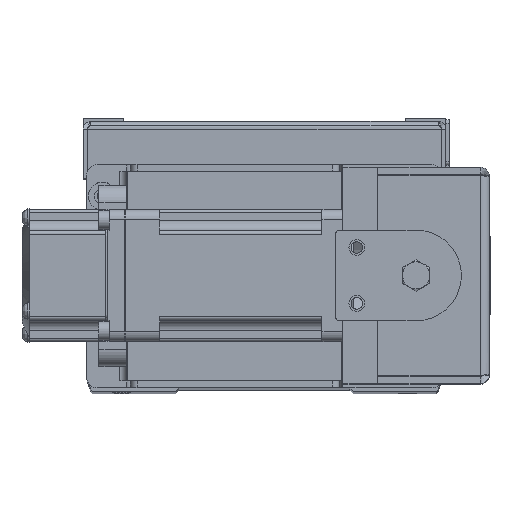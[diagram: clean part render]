
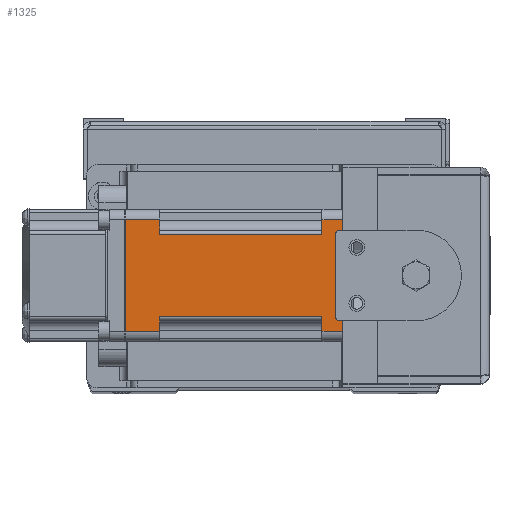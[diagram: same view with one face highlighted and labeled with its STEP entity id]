
A CAD part, top view. The second image highlights one B-rep face of the part: STEP entity #1325.
In plain terms, the highlighted planar face has unit normal (0, 0, 1) as drawn and (0, -1, 0) by its records, which use the part's own axes.
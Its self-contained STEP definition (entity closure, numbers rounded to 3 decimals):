
#243 = ORIENTED_EDGE ( 'NONE', *, *, #21065, .T. ) ;
#563 = DIRECTION ( 'NONE',  ( 0., 0., 1. ) ) ;
#812 = LINE ( 'NONE', #24228, #8118 ) ;
#827 = CARTESIAN_POINT ( 'NONE',  ( -6., -19., 11.85 ) ) ;
#923 = PLANE ( 'NONE',  #34964 ) ;
#1007 = CARTESIAN_POINT ( 'NONE',  ( -62.48, -19., 16. ) ) ;
#1127 = LINE ( 'NONE', #20963, #6286 ) ;
#1325 = ADVANCED_FACE ( 'NONE', ( #35886 ), #923, .T. ) ;
#2058 = CARTESIAN_POINT ( 'NONE',  ( -6., -19., 16. ) ) ;
#2130 = CARTESIAN_POINT ( 'NONE',  ( -52.5, -19., -16. ) ) ;
#2350 = VECTOR ( 'NONE', #5243, 1000. ) ;
#2665 = CARTESIAN_POINT ( 'NONE',  ( -62.48, -19., -16. ) ) ;
#2987 = VECTOR ( 'NONE', #5749, 1000. ) ;
#4201 = EDGE_CURVE ( 'NONE', #6213, #32637, #11786, .T. ) ;
#4833 = ORIENTED_EDGE ( 'NONE', *, *, #26191, .T. ) ;
#4859 = VERTEX_POINT ( 'NONE', #7565 ) ;
#5193 = LINE ( 'NONE', #36953, #2987 ) ;
#5243 = DIRECTION ( 'NONE',  ( -1., 0., 0. ) ) ;
#5392 = VECTOR ( 'NONE', #10130, 1000. ) ;
#5465 = ORIENTED_EDGE ( 'NONE', *, *, #28088, .T. ) ;
#5749 = DIRECTION ( 'NONE',  ( 0., 0., -1. ) ) ;
#5849 = DIRECTION ( 'NONE',  ( 0., 0., 1. ) ) ;
#6213 = VERTEX_POINT ( 'NONE', #24379 ) ;
#6286 = VECTOR ( 'NONE', #32477, 1000. ) ;
#6408 = CARTESIAN_POINT ( 'NONE',  ( -52.5, -19., -16. ) ) ;
#7392 = DIRECTION ( 'NONE',  ( -1., 0., 0. ) ) ;
#7565 = CARTESIAN_POINT ( 'NONE',  ( 0., -19., -16. ) ) ;
#7654 = ORIENTED_EDGE ( 'NONE', *, *, #15690, .T. ) ;
#7850 = ORIENTED_EDGE ( 'NONE', *, *, #19180, .T. ) ;
#8118 = VECTOR ( 'NONE', #12340, 1000. ) ;
#8151 = EDGE_CURVE ( 'NONE', #14044, #13150, #9222, .T. ) ;
#8171 = VECTOR ( 'NONE', #18351, 1000. ) ;
#8985 = VECTOR ( 'NONE', #19485, 1000. ) ;
#9222 = LINE ( 'NONE', #2665, #18110 ) ;
#9294 = LINE ( 'NONE', #17968, #8171 ) ;
#9843 = CARTESIAN_POINT ( 'NONE',  ( -52.5, -19., 16. ) ) ;
#9889 = DIRECTION ( 'NONE',  ( 1., 0., 0. ) ) ;
#10130 = DIRECTION ( 'NONE',  ( 1., 0., 0. ) ) ;
#10950 = EDGE_LOOP ( 'NONE', ( #5465, #4833, #13513, #243, #14130, #24480, #19287, #15402, #17131, #7850, #7654, #15439 ) ) ;
#11070 = VERTEX_POINT ( 'NONE', #31630 ) ;
#11711 = EDGE_CURVE ( 'NONE', #24531, #21652, #21227, .T. ) ;
#11757 = EDGE_CURVE ( 'NONE', #29458, #4859, #25125, .T. ) ;
#11786 = LINE ( 'NONE', #827, #2350 ) ;
#12097 = LINE ( 'NONE', #26221, #20307 ) ;
#12340 = DIRECTION ( 'NONE',  ( 0., 0., 1. ) ) ;
#12649 = DIRECTION ( 'NONE',  ( 0., -1., 0. ) ) ;
#13150 = VERTEX_POINT ( 'NONE', #32694 ) ;
#13513 = ORIENTED_EDGE ( 'NONE', *, *, #8151, .T. ) ;
#14044 = VERTEX_POINT ( 'NONE', #1007 ) ;
#14130 = ORIENTED_EDGE ( 'NONE', *, *, #33313, .T. ) ;
#15246 = DIRECTION ( 'NONE',  ( 0., 0., -1. ) ) ;
#15272 = CARTESIAN_POINT ( 'NONE',  ( -6., -19., -16. ) ) ;
#15402 = ORIENTED_EDGE ( 'NONE', *, *, #11757, .T. ) ;
#15439 = ORIENTED_EDGE ( 'NONE', *, *, #4201, .T. ) ;
#15690 = EDGE_CURVE ( 'NONE', #11070, #6213, #9294, .T. ) ;
#15969 = CARTESIAN_POINT ( 'NONE',  ( -52.5, -19., 11.85 ) ) ;
#16462 = CARTESIAN_POINT ( 'NONE',  ( -6., -19., -16. ) ) ;
#17017 = EDGE_CURVE ( 'NONE', #4859, #18938, #12097, .T. ) ;
#17131 = ORIENTED_EDGE ( 'NONE', *, *, #17017, .T. ) ;
#17249 = CARTESIAN_POINT ( 'NONE',  ( -6., -19., -16. ) ) ;
#17918 = VERTEX_POINT ( 'NONE', #2130 ) ;
#17968 = CARTESIAN_POINT ( 'NONE',  ( -6., -19., -16. ) ) ;
#18110 = VECTOR ( 'NONE', #15246, 1000. ) ;
#18351 = DIRECTION ( 'NONE',  ( 0., 0., -1. ) ) ;
#18938 = VERTEX_POINT ( 'NONE', #34975 ) ;
#19039 = VERTEX_POINT ( 'NONE', #9843 ) ;
#19180 = EDGE_CURVE ( 'NONE', #18938, #11070, #33247, .T. ) ;
#19287 = ORIENTED_EDGE ( 'NONE', *, *, #21216, .T. ) ;
#19485 = DIRECTION ( 'NONE',  ( 1., 0., 0. ) ) ;
#20307 = VECTOR ( 'NONE', #5849, 1000. ) ;
#20346 = VECTOR ( 'NONE', #9889, 1000. ) ;
#20963 = CARTESIAN_POINT ( 'NONE',  ( -6., -19., 16. ) ) ;
#21065 = EDGE_CURVE ( 'NONE', #13150, #17918, #28011, .T. ) ;
#21216 = EDGE_CURVE ( 'NONE', #21652, #29458, #5193, .T. ) ;
#21227 = LINE ( 'NONE', #35951, #20346 ) ;
#21652 = VERTEX_POINT ( 'NONE', #25525 ) ;
#24164 = CARTESIAN_POINT ( 'NONE',  ( -52.5, -19., -11.85 ) ) ;
#24228 = CARTESIAN_POINT ( 'NONE',  ( -52.5, -19., -16. ) ) ;
#24379 = CARTESIAN_POINT ( 'NONE',  ( -6., -19., 11.85 ) ) ;
#24480 = ORIENTED_EDGE ( 'NONE', *, *, #11711, .T. ) ;
#24531 = VERTEX_POINT ( 'NONE', #24164 ) ;
#25125 = LINE ( 'NONE', #16462, #8985 ) ;
#25525 = CARTESIAN_POINT ( 'NONE',  ( -6., -19., -11.85 ) ) ;
#26191 = EDGE_CURVE ( 'NONE', #19039, #14044, #1127, .T. ) ;
#26220 = LINE ( 'NONE', #6408, #30383 ) ;
#26221 = CARTESIAN_POINT ( 'NONE',  ( 0., -19., -16. ) ) ;
#27346 = DIRECTION ( 'NONE',  ( 0., 0., -1. ) ) ;
#28011 = LINE ( 'NONE', #36382, #5392 ) ;
#28088 = EDGE_CURVE ( 'NONE', #32637, #19039, #812, .T. ) ;
#29458 = VERTEX_POINT ( 'NONE', #17249 ) ;
#30383 = VECTOR ( 'NONE', #563, 1000. ) ;
#31630 = CARTESIAN_POINT ( 'NONE',  ( -6., -19., 16. ) ) ;
#32477 = DIRECTION ( 'NONE',  ( -1., 0., 0. ) ) ;
#32637 = VERTEX_POINT ( 'NONE', #15969 ) ;
#32694 = CARTESIAN_POINT ( 'NONE',  ( -62.48, -19., -16. ) ) ;
#33247 = LINE ( 'NONE', #2058, #36166 ) ;
#33313 = EDGE_CURVE ( 'NONE', #17918, #24531, #26220, .T. ) ;
#34964 = AXIS2_PLACEMENT_3D ( 'NONE', #15272, #12649, #27346 ) ;
#34975 = CARTESIAN_POINT ( 'NONE',  ( 0., -19., 16. ) ) ;
#35886 = FACE_OUTER_BOUND ( 'NONE', #10950, .T. ) ;
#35951 = CARTESIAN_POINT ( 'NONE',  ( -6., -19., -11.85 ) ) ;
#36166 = VECTOR ( 'NONE', #7392, 1000. ) ;
#36382 = CARTESIAN_POINT ( 'NONE',  ( -6., -19., -16. ) ) ;
#36953 = CARTESIAN_POINT ( 'NONE',  ( -6., -19., -16. ) ) ;
